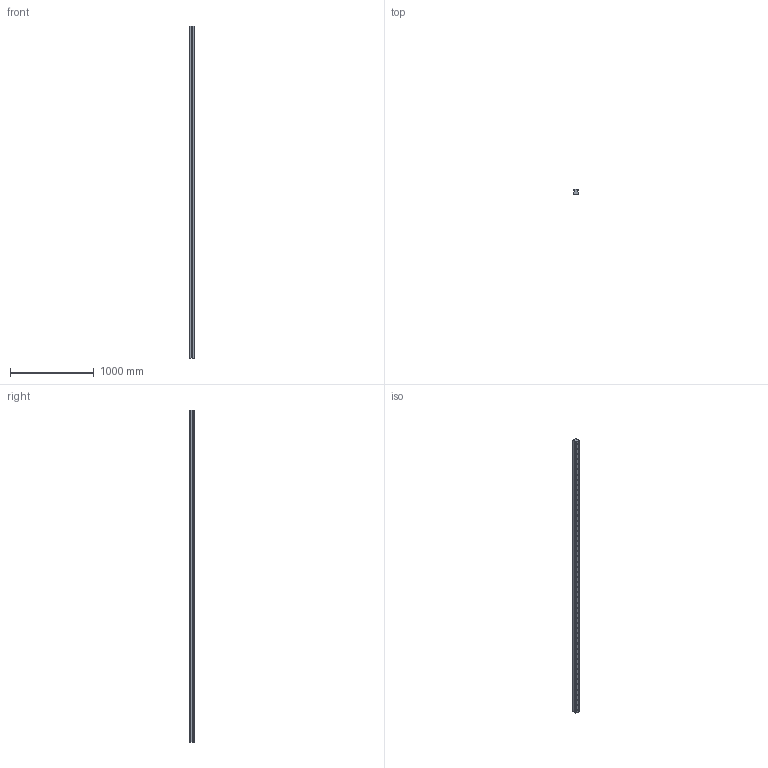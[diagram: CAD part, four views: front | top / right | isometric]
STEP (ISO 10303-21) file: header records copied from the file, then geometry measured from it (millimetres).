
FILE_DESCRIPTION((''),'2;1');
FILE_NAME('ROLLENSCHIENE_C','2021-12-23T05:47:24',('ac91sw'),(''),'CREO PARAMETRIC BY PTC INC, 2020044','CREO PARAMETRIC BY PTC INC, 2020044','');
FILE_SCHEMA(('AUTOMOTIVE_DESIGN { 1 0 10303 214 1 1 1 1 }'));
Length unit declared in the file: millimetre
Products named in the file (3): ROLLENSCHIENE_C_SKEL; ROLLENSCHIENE_C_RAIL1; ROLLENSCHIENE_C
Assembly tree (2 placements, depth 2):
  ROLLENSCHIENE_C
    ROLLENSCHIENE_C_SKEL
    ROLLENSCHIENE_C_RAIL1
Bounding box: 63 x 57.85 x 3971 mm (x, y, z)
Volume: 10978100.3 mm3; surface area: 1053990.1 mm2
Topology: 1 solids, 1 shells, 272 faces, 772 edges, 604 vertices
Faces by surface type: cylinder 106, cone 106, plane 60
Entity records: 8494 total; most frequent: DIRECTION 1480, CARTESIAN_POINT 1367, ORIENTED_EDGE 1124, EDGE_CURVE 562, AXIS2_PLACEMENT_3D 513, VECTOR 454, LINE 454, VERTEX_POINT 345
